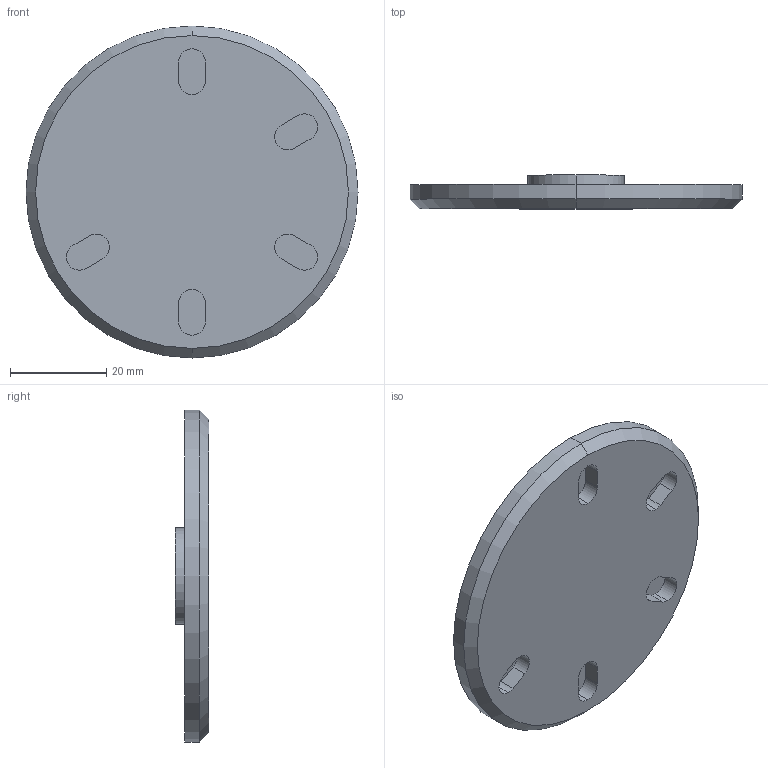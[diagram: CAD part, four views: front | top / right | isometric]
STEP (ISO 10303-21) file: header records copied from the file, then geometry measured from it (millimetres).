
FILE_DESCRIPTION (( 'STEP AP214' ), '1' );
FILE_NAME ('Cilon_Surface_Mount_Fixed.STEP', '2018-12-04T05:40:54', ( '' ), ( '' ), 'SwSTEP 2.0', 'SolidWorks 2017', '' );
FILE_SCHEMA (( 'AUTOMOTIVE_DESIGN' ));
Length unit declared in the file: millimetre
Products named in the file (1): Cilon_Surface_Mount_Fixed
Bounding box: 69 x 7 x 69 mm (x, y, z)
Volume: 18098.8 mm3; surface area: 8871.3 mm2
Topology: 1 solids, 1 shells, 39 faces, 91 edges, 60 vertices
Faces by surface type: cylinder 19, plane 18, cone 2
Entity records: 1163 total; most frequent: DIRECTION 211, CARTESIAN_POINT 191, ORIENTED_EDGE 182, EDGE_CURVE 91, AXIS2_PLACEMENT_3D 80, VERTEX_POINT 60, LINE 51, VECTOR 51
